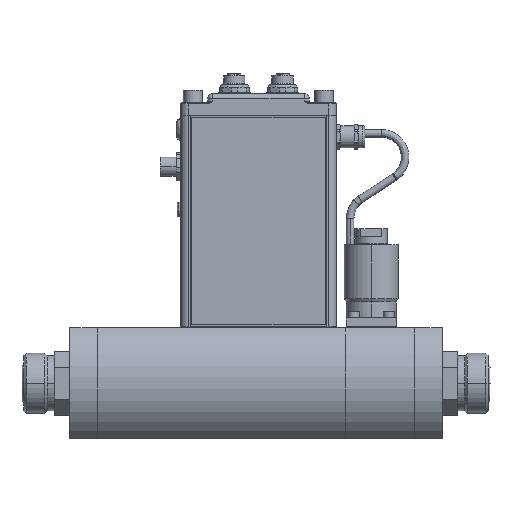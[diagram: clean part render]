
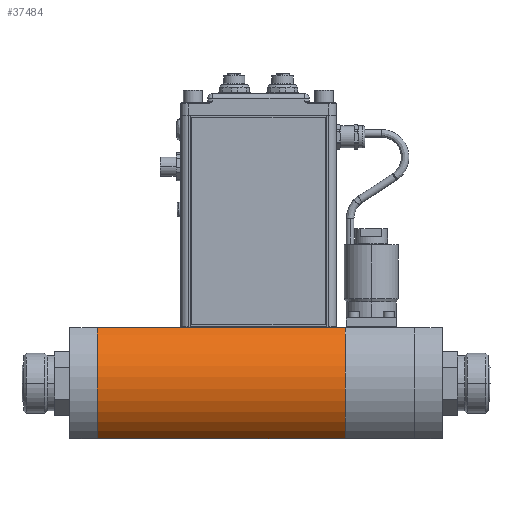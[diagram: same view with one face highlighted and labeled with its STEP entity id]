
A CAD part, top view. The second image highlights one B-rep face of the part: STEP entity #37484.
In plain terms, the highlighted cylindrical face has radius 43 mm (diameter 86 mm), a partial arc.
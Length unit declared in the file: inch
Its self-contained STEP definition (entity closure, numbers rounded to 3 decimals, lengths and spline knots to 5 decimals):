
#1521 = VECTOR ( 'NONE', #32115, 39.37008 ) ;
#1988 = VERTEX_POINT ( 'NONE', #37877 ) ;
#5741 = FACE_OUTER_BOUND ( 'NONE', #40543, .T. ) ;
#8996 = ORIENTED_EDGE ( 'NONE', *, *, #24626, .F. ) ;
#12231 = AXIS2_PLACEMENT_3D ( 'NONE', #25395, #33219, #29171 ) ;
#12758 = CIRCLE ( 'NONE', #23257, 1.69291 ) ;
#13070 = CARTESIAN_POINT ( 'NONE',  ( 2.22047, 2.76772, 0.97581 ) ) ;
#16994 = CARTESIAN_POINT ( 'NONE',  ( -3.94488, 0., 0.97581 ) ) ;
#17442 = DIRECTION ( 'NONE',  ( 1., 0., 0. ) ) ;
#18431 = VERTEX_POINT ( 'NONE', #13070 ) ;
#20534 = LINE ( 'NONE', #16994, #1521 ) ;
#21307 = DIRECTION ( 'NONE',  ( -1., 0., 0. ) ) ;
#22744 = VERTEX_POINT ( 'NONE', #30265 ) ;
#23257 = AXIS2_PLACEMENT_3D ( 'NONE', #39943, #21307, #37173 ) ;
#23299 = EDGE_CURVE ( 'NONE', #1988, #22744, #20534, .T. ) ;
#24267 = ORIENTED_EDGE ( 'NONE', *, *, #45368, .F. ) ;
#24626 = EDGE_CURVE ( 'NONE', #22744, #43906, #12758, .T. ) ;
#25395 = CARTESIAN_POINT ( 'NONE',  ( -3.94488, 1.38386, 0.00068 ) ) ;
#26622 = CARTESIAN_POINT ( 'NONE',  ( -3.94488, 2.76772, 0.97581 ) ) ;
#27868 = VECTOR ( 'NONE', #17442, 39.37008 ) ;
#28041 = ORIENTED_EDGE ( 'NONE', *, *, #23299, .F. ) ;
#28761 = CARTESIAN_POINT ( 'NONE',  ( 2.22047, 1.38386, 0.00068 ) ) ;
#29171 = DIRECTION ( 'NONE',  ( 0., 1., 0. ) ) ;
#29537 = LINE ( 'NONE', #40886, #27868 ) ;
#30265 = CARTESIAN_POINT ( 'NONE',  ( -3.94488, 0., 0.97581 ) ) ;
#31450 = ORIENTED_EDGE ( 'NONE', *, *, #41871, .F. ) ;
#32115 = DIRECTION ( 'NONE',  ( -1., 0., 0. ) ) ;
#32291 = DIRECTION ( 'NONE',  ( 0., 1., 0. ) ) ;
#33057 = DIRECTION ( 'NONE',  ( 1., 0., 0. ) ) ;
#33219 = DIRECTION ( 'NONE',  ( 1., 0., 0. ) ) ;
#37173 = DIRECTION ( 'NONE',  ( 0., 1., 0. ) ) ;
#37244 = CYLINDRICAL_SURFACE ( 'NONE', #12231, 1.69291 ) ;
#37248 = AXIS2_PLACEMENT_3D ( 'NONE', #28761, #33057, #32291 ) ;
#37484 = ADVANCED_FACE ( 'NONE', ( #5741 ), #37244, .T. ) ;
#37877 = CARTESIAN_POINT ( 'NONE',  ( 2.22047, 0., 0.97581 ) ) ;
#39943 = CARTESIAN_POINT ( 'NONE',  ( -3.94488, 1.38386, 0.00068 ) ) ;
#40543 = EDGE_LOOP ( 'NONE', ( #31450, #24267, #8996, #28041 ) ) ;
#40886 = CARTESIAN_POINT ( 'NONE',  ( -3.94488, 2.76772, 0.97581 ) ) ;
#41871 = EDGE_CURVE ( 'NONE', #18431, #1988, #43790, .T. ) ;
#43790 = CIRCLE ( 'NONE', #37248, 1.69291 ) ;
#43906 = VERTEX_POINT ( 'NONE', #26622 ) ;
#45368 = EDGE_CURVE ( 'NONE', #43906, #18431, #29537, .T. ) ;
